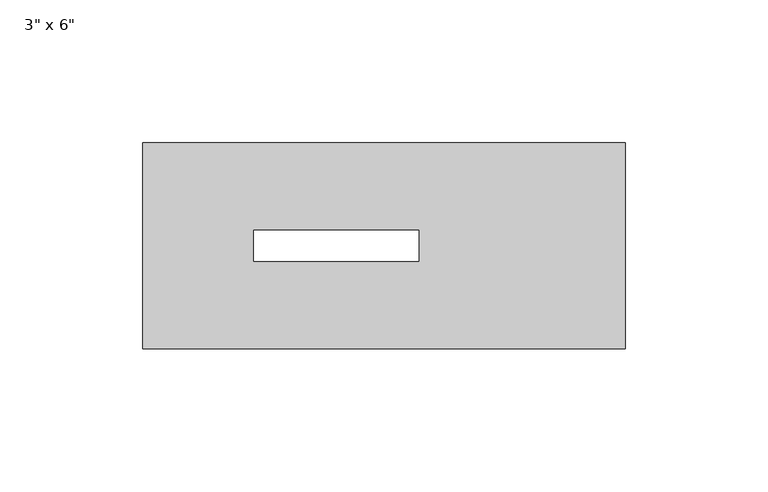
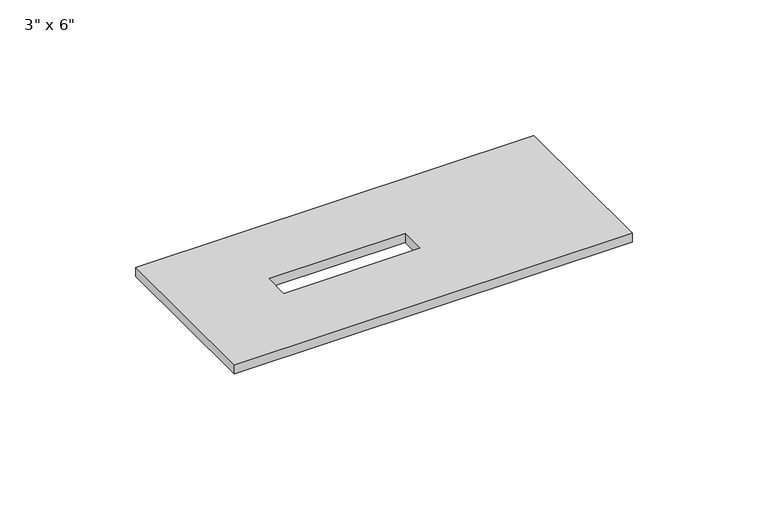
"""IFC4 building model written with IfcOpenShell, lengths in millimetres: furniture geometry."""

from ifc_helpers import new_model, si_unit, origin, origin_with_axes, place, context, project, spatial, polyline, outline, extrude, source, transform, mapped, element, save


def furniture_9f5f73cf(model_context):
    return source(origin(), model_context, "Body", "SweptSolid", [
        extrude(outline(polyline([(84.5098035, 36.1196158), (84.5098035, -36.1196158), (-84.5098035, -36.1196158), (-84.5098035, 36.1196158), (84.5098035, 36.1196158)]), holes=[polyline([(12.1647928, 5.4019237), (-45.7117311, 5.4019237), (-45.7117311, -5.4019237), (12.1647928, -5.4019237), (12.1647928, 5.4019237)])]), origin_with_axes(), (0.0, 0.0, 1.0), 3.9999739),
    ])


if __name__ == "__main__":
    model = new_model("IFC4")
    model_context = context("Model", 3, world=origin())
    ifc_project = project(units=[si_unit("LENGTHUNIT", "METRE", prefix="MILLI")], contexts=[model_context])
    site = spatial("IfcSite", under=ifc_project)
    building = spatial("IfcBuilding", under=site)
    placement = place(None, origin())
    furniture_shape = furniture_9f5f73cf(model_context)
    element("IfcFurniture", 1, ObjectType="Desk-Grommet-Teknion-RAGC-R2015 : 3\" x 6\"", at=placement, inside=building, context=model_context, shape_type="MappedRepresentation", body=[
        mapped(furniture_shape, transform((0.0, 0.0, 0.0), x_axis=(1.0, 0.0, 0.0), y_axis=(0.0, 1.0, 0.0), z_axis=(0.0, 0.0, 1.0))),
    ])
    save(model, "model.ifc")
